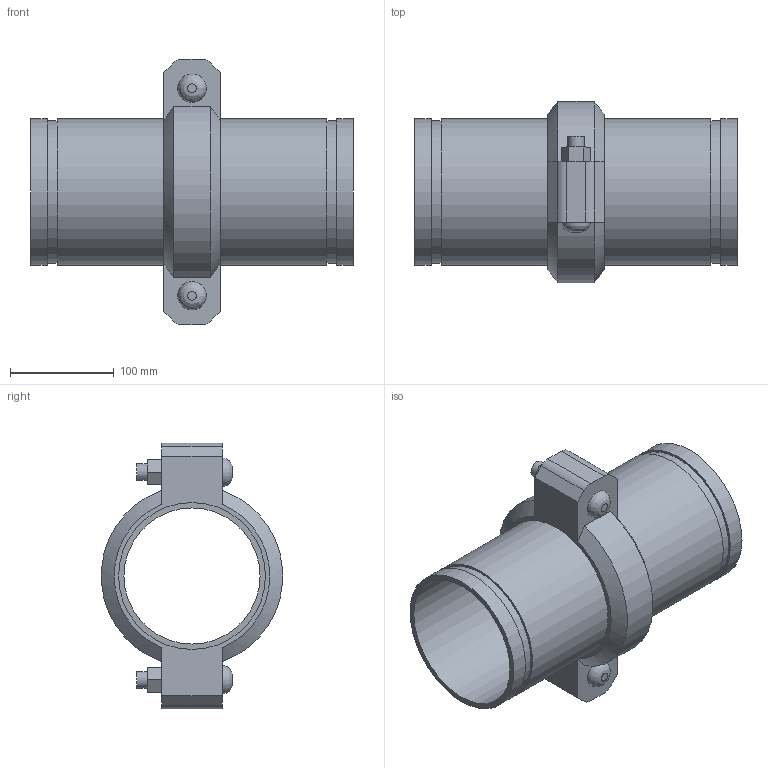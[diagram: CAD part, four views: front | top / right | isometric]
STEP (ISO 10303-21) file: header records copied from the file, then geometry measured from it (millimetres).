
FILE_DESCRIPTION(/* description */ ('VIC EXPANSION JOINT 1 COUPLING EXPANDED STYLE 155 (OGS)','CAx-IF Rec.Pracs.---Representation and Presentation of Product Manufacturing Information (PMI)---4.0---2014-10-13'),/* implementation_level */ '2;1');
FILE_NAME(/* name */ 'C:\Users\kkamble\AppData\Roaming\Autodesk\ApplicationPlugins\Victaulic.Temp\A694\Victaulic_IPS_Expansion Joint_Expanded_1 Coupling_Style 155 (OGS)_5 (125).stp',/* time_stamp */ '2021-06-26T23:47:44+02:00',/* author */ ('kkamble'),/* organization */ ('Victaulic'),/* preprocessor_version */ 'ST-DEVELOPER v17.2',/* originating_system */ 'Autodesk Inventor 2019',/* authorisation */ '');
FILE_SCHEMA (('AP242_MANAGED_MODEL_BASED_3D_ENGINEERING_MIM_LF { 1 0 10303 442 1 1 4 }'));
Length unit declared in the file: inch
Products named in the file (3): 155-05.0; Nipple-05.0; 075-05.0
Assembly tree (3 placements, depth 2):
  155-05.0
    Nipple-05.0  x2
    075-05.0
Bounding box: 310.39 x 174.16 x 255.78 mm (x, y, z)
Volume: 1315267.8 mm3; surface area: 379869.2 mm2
Topology: 3 solids, 5 shells, 81 faces, 193 edges, 138 vertices
Faces by surface type: plane 48, cylinder 27, cone 4, bspline 2
Full cylindrical faces by diameter (mm): 15.875 x4, 17.424 x2, 130.988 x2, 134.95 x1, 137.033 x4, 141.3 x8
Entity records: 2301 total; most frequent: CARTESIAN_POINT 420, DIRECTION 369, ORIENTED_EDGE 326, EDGE_CURVE 163, AXIS2_PLACEMENT_3D 141, VERTEX_POINT 114, EDGE_LOOP 89, LINE 87
